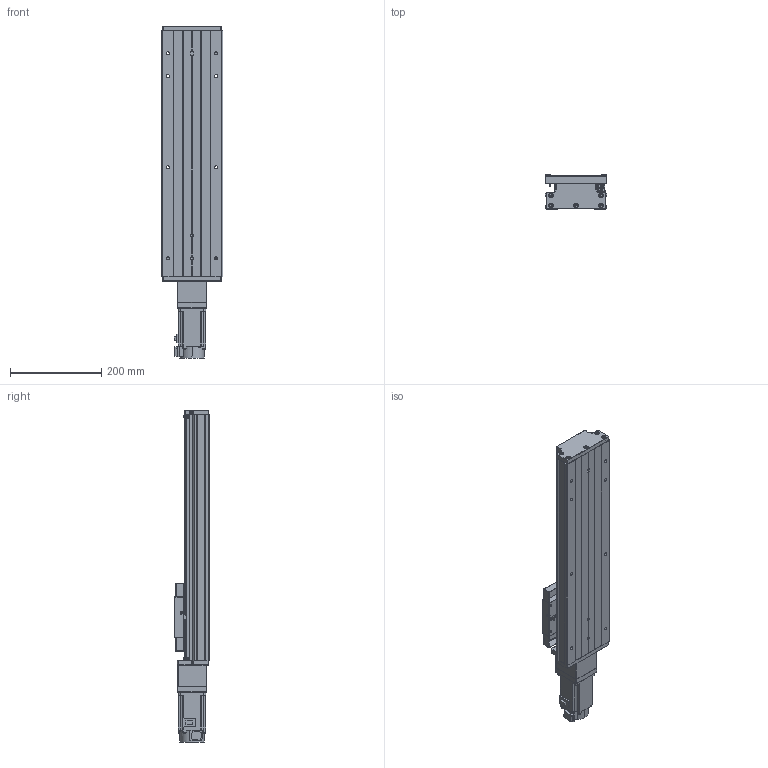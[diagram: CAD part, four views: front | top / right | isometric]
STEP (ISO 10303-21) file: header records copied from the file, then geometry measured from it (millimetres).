
FILE_DESCRIPTION (( 'STEP AP203' ), '1' );
FILE_NAME ('CTH130-350-BC-M40-C4.step', '2023-06-30T02:32:50', ( '微软用户' ), ( '微软中国' ), 'SwSTEP 2.0', 'SolidWorks 2020', '' );
FILE_SCHEMA (( 'CONFIG_CONTROL_DESIGN' ));
Length unit declared in the file: millimetre
Products named in the file (21): CTHA60-016; CTHA86-013; GTH14-004; GBT 70.1-M3℅5; CTHA86-027-1; GTH14-005; GBT77-2000 M3×3; GBT 70.3-M3℅8; GB1155-6X6; CTH130-031; HG-KN43J-S100; GBT70.1 M5℅16; GBT 70.2-M3¡Á5_M3¡Á6; CTH130-350-BC-M40-C4; GTH14-001_350; CTHA60-017; す晦芛蹟隊 M3℅5; CTH130-002_GTH14-002; EE_SX911P_R; CTHA86-006-1_M40; GB T308.1-2013-6.35
Assembly tree (59 placements, depth 2):
  CTH130-350-BC-M40-C4
    GTH14-001_350
    CTH130-002_GTH14-002
    GB T308.1-2013-6.35  x2
    GTH14-004
    GTH14-005
    GB1155-6X6  x2
    GBT70.1 M5℅16  x10
    CTHA60-017  x3
    EE_SX911P_R  x3
    CTHA60-016  x2
    GBT 70.1-M3℅5  x6
    GBT77-2000 M3×3  x6
    CTH130-031
    GBT 70.2-M3¡Á5_M3¡Á6  x8
    す晦芛蹟隊 M3℅5  x6
    CTHA86-006-1_M40
    CTHA86-013
    CTHA86-027-1
    GBT 70.3-M3℅8  x2
    HG-KN43J-S100
Bounding box: 135 x 76 x 728.7 mm (x, y, z)
Volume: 3524481.1 mm3; surface area: 591521.2 mm2
Topology: 62 solids, 62 shells, 2370 faces, 5657 edges, 3503 vertices
Faces by surface type: plane 1301, cylinder 618, cone 287, torus 120, sphere 24, bspline 20
Entity records: 43372 total; most frequent: CARTESIAN_POINT 9755, DIRECTION 6271, ORIENTED_EDGE 6214, EDGE_CURVE 3107, AXIS2_PLACEMENT_3D 2115, VECTOR 2041, LINE 2041, VERTEX_POINT 1963
